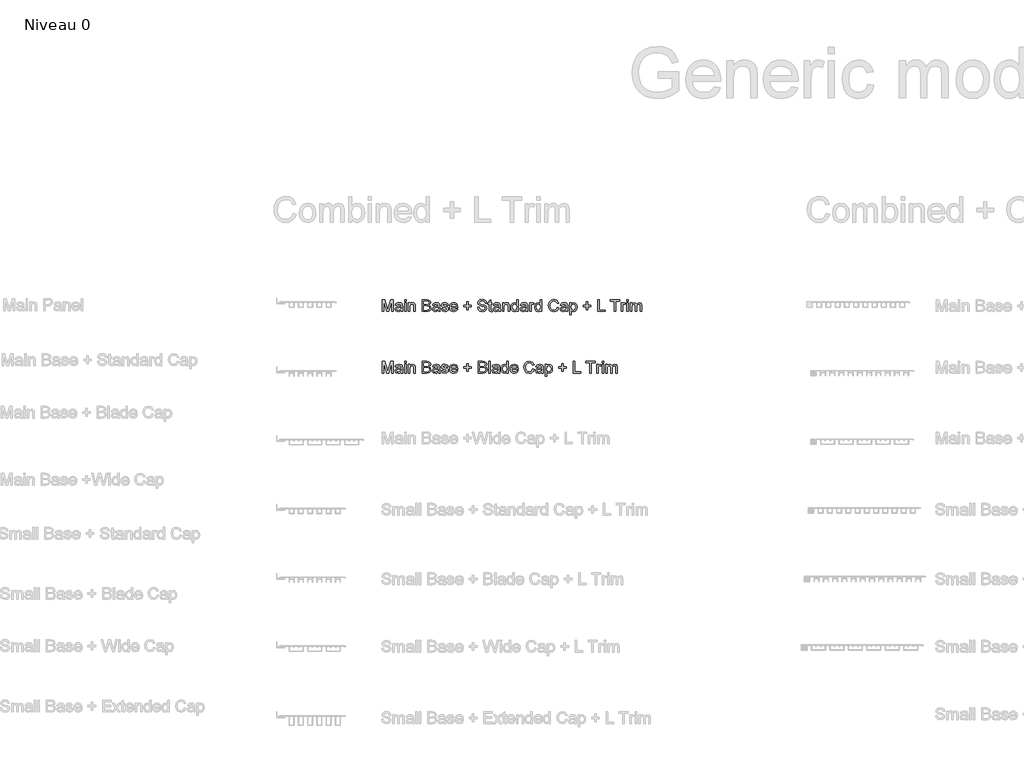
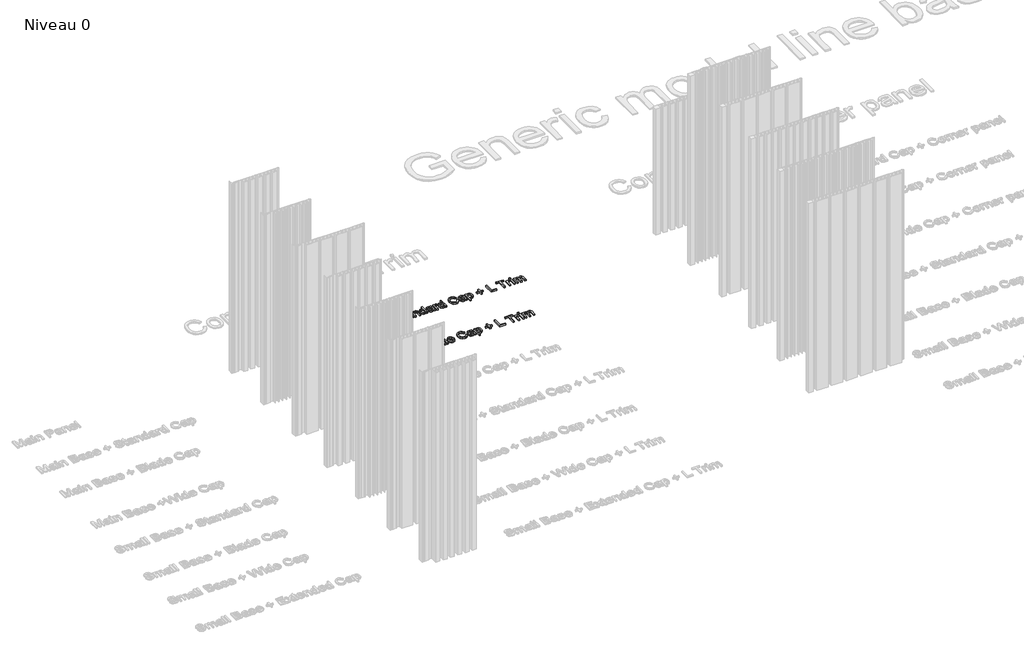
# One storey, part 17 of 25: 2 proxies.
"""IFC4 building model written with IfcOpenShell, lengths in millimetres."""

from ifc_helpers import new_model, si_unit, origin, origin_with_axes, place, context, project, spatial, polyline, outline, extrude, element, save

model = new_model("IFC4")

# Units and contexts
model_context = context("Model", 3, world=origin())
ifc_project = project(units=[si_unit("LENGTHUNIT", "METRE", prefix="MILLI")], contexts=[model_context])

# Site, building, storey
site = spatial("IfcSite", under=ifc_project)
building = spatial("IfcBuilding", under=site)
storey = spatial("IfcBuildingStorey", under=building, Name="Niveau 0", Elevation=0.0)

# Proxies
placement = place(None, origin())
element("IfcBuildingElementProxy", 1, Name="70mm Arial", ObjectType="70mm Arial", at=placement, inside=storey, context=model_context, shape_type="SweptSolid", body=[
    extrude(outline(polyline([(586.1765083, 4513.9134613), (586.1765083, 4584.2328784), (601.3013634, 4584.2328784), (615.688002, 4534.6693635), (618.5893646, 4524.3171642), (621.7310769, 4535.5277548), (635.8773659, 4584.2328784), (651.0022209, 4584.2328784), (651.0022209, 4513.9134613), (642.2122938, 4513.9134613), (642.2122938, 4575.4429513), (624.5466004, 4513.9134613), (612.6321289, 4513.9134613), (594.9664354, 4575.4429513), (594.9664354, 4513.9134613), (586.1765083, 4513.9134613)])), origin_with_axes(), (0.0, 0.0, 1.0), 10.0),
    extrude(outline(polyline([(698.2480793, 4520.5059067), (689.7242535, 4514.5486709), (680.3077007, 4512.8147204), (667.5434217, 4516.9865023), (663.0883708, 4527.6477225), (664.7708178, 4534.6006922), (669.1915331, 4539.6480332), (675.3461988, 4542.532228), (682.951546, 4543.8541506), (698.1965758, 4546.8756881), (698.2480793, 4548.8328203), (695.8274158, 4555.3222587), (686.110426, 4557.863097), (677.2174919, 4556.1720661), (672.9770388, 4550.1719108), (664.1871117, 4551.2706517), (667.9897852, 4559.8545649), (675.6466358, 4564.884738), (687.2435026, 4566.6530242), (697.8961389, 4565.090752), (703.913462, 4561.1679036), (706.6088108, 4555.2020839), (707.0380065, 4547.5108977), (707.0380065, 4536.5749922), (707.4843699, 4521.3042106), (709.2354882, 4513.9134613), (700.4455611, 4513.9134613), (698.2480793, 4520.5059067)]), holes=[polyline([(698.2480793, 4538.085761), (684.0674547, 4535.3904122), (676.5050271, 4533.9654826), (673.0800458, 4531.647826), (671.8782979, 4528.2657642), (674.4963914, 4523.5102763), (682.1789938, 4521.6046476), (691.0719279, 4523.7077063), (696.8059819, 4528.7979669), (698.1965758, 4535.5964261), (698.2480793, 4538.085761)])]), origin_with_axes(), (0.0, 0.0, 1.0), 10.0),
    extrude(outline(polyline([(719.1241563, 4513.9134613), (719.1241563, 4565.5542833), (727.9140834, 4565.5542833), (727.9140834, 4513.9134613), (719.1241563, 4513.9134613)])), origin_with_axes(), (0.0, 0.0, 1.0), 10.0),
    extrude(outline(polyline([(719.1241563, 4575.4429513), (719.1241563, 4584.2328784), (727.9140834, 4584.2328784), (727.9140834, 4575.4429513), (719.1241563, 4575.4429513)])), origin_with_axes(), (0.0, 0.0, 1.0), 10.0),
    extrude(outline(polyline([(741.0989741, 4513.9134613), (741.0989741, 4565.5542833), (749.8889013, 4565.5542833), (749.8889013, 4558.3437962), (756.6101053, 4564.5757172), (765.7863085, 4566.6530242), (774.0869526, 4564.9791611), (779.7523353, 4560.5841975), (782.3875967, 4554.1205109), (782.851128, 4545.6224368), (782.851128, 4513.9134613), (774.0612009, 4513.9134613), (774.0612009, 4544.4378567), (773.0482991, 4552.2148821), (769.4688073, 4556.3265766), (763.4343163, 4557.863097), (753.8975887, 4554.4123639), (749.8889013, 4541.3133123), (749.8889013, 4513.9134613), (741.0989741, 4513.9134613)])), origin_with_axes(), (0.0, 0.0, 1.0), 10.0),
    extrude(outline(polyline([(823.504541, 4513.9134613), (823.504541, 4584.2328784), (850.3378538, 4584.2328784), (863.4798249, 4582.1641554), (871.2396825, 4575.8034757), (874.0466221, 4566.8075346), (871.6860459, 4558.5927296), (864.5528141, 4552.3693926), (873.2139825, 4545.8112829), (876.2441039, 4534.8753774), (874.1753808, 4525.424489), (869.0507846, 4518.694701), (861.4025179, 4515.1237931), (850.1318398, 4513.9134613), (823.504541, 4513.9134613)]), holes=[polyline([(832.2944682, 4555.6656152), (848.3463859, 4555.6656152), (857.7200191, 4556.4209996), (863.3596501, 4559.6743027), (865.2566949, 4565.3997728), (863.4884088, 4571.1338269), (858.4239, 4574.5244726), (847.1274702, 4575.4429513), (832.2944682, 4575.4429513), (832.2944682, 4555.6656152)]), polyline([(832.2944682, 4522.7033885), (850.3206859, 4522.7033885), (856.84446, 4523.046745), (862.3639162, 4524.9609576), (866.0206632, 4528.8666382), (867.4541767, 4534.7895383), (865.7717297, 4541.6223332), (860.3209448, 4545.699692), (849.4622946, 4546.8756881), (832.2944682, 4546.8756881), (832.2944682, 4522.7033885)])]), origin_with_axes(), (0.0, 0.0, 1.0), 10.0),
    extrude(outline(polyline([(920.1937396, 4520.5059067), (911.6699137, 4514.5486709), (902.2533609, 4512.8147204), (889.489082, 4516.9865023), (885.034031, 4527.6477225), (886.716478, 4534.6006922), (891.1371933, 4539.6480332), (897.2918591, 4542.532228), (904.8972062, 4543.8541506), (920.1422361, 4546.8756881), (920.1937396, 4548.8328203), (917.773076, 4555.3222587), (908.0560863, 4557.863097), (899.1631522, 4556.1720661), (894.922699, 4550.1719108), (886.1327719, 4551.2706517), (889.9354454, 4559.8545649), (897.592296, 4564.884738), (909.1891628, 4566.6530242), (919.8417991, 4565.090752), (925.8591223, 4561.1679036), (928.554471, 4555.2020839), (928.9836667, 4547.5108977), (928.9836667, 4536.5749922), (929.4300302, 4521.3042106), (931.1811485, 4513.9134613), (922.3912213, 4513.9134613), (920.1937396, 4520.5059067)]), holes=[polyline([(920.1937396, 4538.085761), (906.0131149, 4535.3904122), (898.4506874, 4533.9654826), (895.025706, 4531.647826), (893.8239581, 4528.2657642), (896.4420517, 4523.5102763), (904.124654, 4521.6046476), (913.0175881, 4523.7077063), (918.7516421, 4528.7979669), (920.1422361, 4535.5964261), (920.1937396, 4538.085761)])]), origin_with_axes(), (0.0, 0.0, 1.0), 10.0),
    extrude(outline(polyline([(937.7735938, 4529.2958338), (946.563521, 4530.3945747), (950.6322958, 4523.8708007), (959.9544256, 4521.6046476), (968.916031, 4523.6819546), (971.8345615, 4528.5576173), (968.8988632, 4532.5062174), (959.8514186, 4535.01272), (946.6150244, 4539.3132606), (940.8380508, 4544.3348498), (938.8723347, 4551.4251621), (940.4517748, 4557.9746879), (944.7608992, 4562.9791093), (950.3490267, 4565.580035), (957.9114542, 4566.6530242), (968.6070101, 4564.9276576), (975.4054694, 4560.2580088), (978.4270068, 4552.3693926), (969.6370797, 4551.2706517), (966.3322731, 4556.1205626), (958.5981673, 4557.863097), (950.1859323, 4556.1978179), (947.6622619, 4552.3178891), (948.7094993, 4549.7598829), (951.9885541, 4547.8199186), (959.5595656, 4545.9486255), (972.4611872, 4541.8111793), (978.4527586, 4537.1243627), (980.6244886, 4529.4846799), (978.0750664, 4521.072445), (970.7186528, 4514.9692827), (959.8342508, 4512.8147204), (944.5033818, 4516.9693344), (937.7735938, 4529.2958338)])), origin_with_axes(), (0.0, 0.0, 1.0), 10.0),
    extrude(outline(polyline([(1026.6685991, 4529.2958338), (1035.286848, 4528.1970929), (1027.2265535, 4516.8491597), (1012.2132893, 4512.8147204), (1001.8997175, 4514.5551088), (993.9638898, 4519.7762741), (988.9036729, 4528.1391515), (987.216934, 4539.3046766), (988.9208408, 4550.845748), (994.0325611, 4559.4768727), (1001.8610899, 4564.8589863), (1011.7154223, 4566.6530242), (1021.2628798, 4564.8632783), (1028.8918327, 4559.4940405), (1033.8941081, 4550.8800836), (1035.5615332, 4539.3561801), (1035.5100298, 4536.9870201), (996.0068611, 4536.9870201), (1001.062786, 4525.5704155), (1012.3849675, 4521.6046476), (1021.0032164, 4523.441605), (1026.6685991, 4529.2958338)]), holes=[polyline([(996.0068611, 4545.7769472), (1026.7716061, 4545.7769472), (1023.2522017, 4553.7428187), (1011.6810867, 4557.863097), (1000.8567721, 4554.5754583), (996.0068611, 4545.7769472)])]), origin_with_axes(), (0.0, 0.0, 1.0), 10.0),
    extrude(outline(polyline([(1089.399837, 4524.9008703), (1089.399837, 4543.5794654), (1070.7212418, 4543.5794654), (1070.7212418, 4552.3693926), (1089.399837, 4552.3693926), (1089.399837, 4571.0479877), (1098.1897641, 4571.0479877), (1098.1897641, 4552.3693926), (1116.8683593, 4552.3693926), (1116.8683593, 4543.5794654), (1098.1897641, 4543.5794654), (1098.1897641, 4524.9008703), (1089.399837, 4524.9008703)])), origin_with_axes(), (0.0, 0.0, 1.0), 10.0),
    extrude(outline(polyline([(1154.2255496, 4538.085761), (1163.0154767, 4538.085761), (1165.8481681, 4529.2872499), (1172.7668022, 4523.7248741), (1183.3078476, 4521.6046476), (1192.4926347, 4523.2098394), (1198.4241188, 4527.6219707), (1200.3726671, 4533.5191191), (1198.9134018, 4539.0042397), (1192.9389982, 4542.9957593), (1180.1403836, 4546.3520694), (1166.3632029, 4550.6869456), (1158.8866145, 4557.2278874), (1156.4230314, 4565.9663111), (1159.4703206, 4575.9150665), (1168.3718386, 4582.9367075), (1181.4022189, 4585.3316193), (1195.3081583, 4582.8251167), (1204.5787846, 4575.4601191), (1208.0638533, 4564.4555424), (1199.2739262, 4564.4555424), (1194.2952565, 4573.4858191), (1181.7455754, 4576.5416922), (1169.1615586, 4573.5201547), (1165.2129585, 4566.2238285), (1168.0113142, 4560.1292501), (1182.3636171, 4555.2192518), (1197.9176679, 4550.8071204), (1206.4243259, 4543.6824724), (1209.1625942, 4533.7423009), (1206.0122981, 4523.2270072), (1196.9476857, 4515.5529888), (1183.6512041, 4512.8147204), (1167.9512268, 4515.7675866), (1158.0196392, 4524.6605207), (1154.2255496, 4538.085761)])), origin_with_axes(), (0.0, 0.0, 1.0), 10.0),
    extrude(outline(polyline([(1239.9273392, 4521.2441232), (1241.0260801, 4513.6559439), (1234.4508026, 4512.8147204), (1227.085805, 4514.2739857), (1223.4118902, 4518.102411), (1222.3474849, 4528.0769181), (1222.3474849, 4556.7643561), (1215.7550396, 4556.7643561), (1215.7550396, 4565.5542833), (1222.3474849, 4565.5542833), (1222.3474849, 4578.1039644), (1231.1374121, 4583.2714802), (1231.1374121, 4565.5542833), (1239.9273392, 4565.5542833), (1239.9273392, 4556.7643561), (1231.1374121, 4556.7643561), (1231.1374121, 4528.3344355), (1231.6009434, 4523.8021294), (1233.1031282, 4522.1969376), (1236.0989139, 4521.6046476), (1239.9273392, 4521.2441232)])), origin_with_axes(), (0.0, 0.0, 1.0), 10.0),
    extrude(outline(polyline([(1281.6794931, 4520.5059067), (1273.1556673, 4514.5486709), (1263.7391145, 4512.8147204), (1250.9748355, 4516.9865023), (1246.5197846, 4527.6477225), (1248.2022315, 4534.6006922), (1252.6229469, 4539.6480332), (1258.7776126, 4542.532228), (1266.3829597, 4543.8541506), (1281.6279896, 4546.8756881), (1281.6794931, 4548.8328203), (1279.2588296, 4555.3222587), (1269.5418398, 4557.863097), (1260.6489057, 4556.1720661), (1256.4084526, 4550.1719108), (1247.6185254, 4551.2706517), (1251.421199, 4559.8545649), (1259.0780496, 4564.884738), (1270.6749164, 4566.6530242), (1281.3275527, 4565.090752), (1287.3448758, 4561.1679036), (1290.0402246, 4555.2020839), (1290.4694202, 4547.5108977), (1290.4694202, 4536.5749922), (1290.9157837, 4521.3042106), (1292.666902, 4513.9134613), (1283.8769749, 4513.9134613), (1281.6794931, 4520.5059067)]), holes=[polyline([(1281.6794931, 4538.085761), (1267.4988685, 4535.3904122), (1259.9364409, 4533.9654826), (1256.5114595, 4531.647826), (1255.3097117, 4528.2657642), (1257.9278052, 4523.5102763), (1265.6104076, 4521.6046476), (1274.5033417, 4523.7077063), (1280.2373957, 4528.7979669), (1281.6279896, 4535.5964261), (1281.6794931, 4538.085761)])]), origin_with_axes(), (0.0, 0.0, 1.0), 10.0),
    extrude(outline(polyline([(1302.5555701, 4513.9134613), (1302.5555701, 4565.5542833), (1311.3454972, 4565.5542833), (1311.3454972, 4558.3437962), (1318.0667012, 4564.5757172), (1327.2429045, 4566.6530242), (1335.5435486, 4564.9791611), (1341.2089313, 4560.5841975), (1343.8441927, 4554.1205109), (1344.307724, 4545.6224368), (1344.307724, 4513.9134613), (1335.5177968, 4513.9134613), (1335.5177968, 4544.4378567), (1334.5048951, 4552.2148821), (1330.9254033, 4556.3265766), (1324.8909123, 4557.863097), (1315.3541847, 4554.4123639), (1311.3454972, 4541.3133123), (1311.3454972, 4513.9134613), (1302.5555701, 4513.9134613)])), origin_with_axes(), (0.0, 0.0, 1.0), 10.0),
    extrude(outline(polyline([(1388.2573597, 4513.9134613), (1388.2573597, 4522.2055215), (1382.4417584, 4515.1624207), (1374.4029237, 4512.8147204), (1363.5185218, 4516.2139501), (1355.8273355, 4525.6991742), (1353.0976511, 4539.6823688), (1355.6127377, 4553.6741474), (1363.1494135, 4563.305298), (1374.3685881, 4566.6530242), (1382.4718021, 4564.2581124), (1388.2573597, 4558.0347753), (1388.2573597, 4584.2328784), (1397.0472868, 4584.2328784), (1397.0472868, 4513.9134613), (1388.2573597, 4513.9134613)]), holes=[polyline([(1361.8875782, 4539.7167045), (1365.8533461, 4526.111202), (1375.2098116, 4521.6046476), (1384.4546861, 4525.9051881), (1388.2573597, 4539.0471592), (1384.3860148, 4553.313623), (1374.8492872, 4557.863097), (1365.5958288, 4553.4938852), (1361.8875782, 4539.7167045)])]), origin_with_axes(), (0.0, 0.0, 1.0), 10.0),
    extrude(outline(polyline([(1443.1944043, 4520.5059067), (1434.6705784, 4514.5486709), (1425.2540256, 4512.8147204), (1412.4897467, 4516.9865023), (1408.0346957, 4527.6477225), (1409.7171427, 4534.6006922), (1414.137858, 4539.6480332), (1420.2925238, 4542.532228), (1427.8978709, 4543.8541506), (1443.1429008, 4546.8756881), (1443.1944043, 4548.8328203), (1440.7737407, 4555.3222587), (1431.056751, 4557.863097), (1422.1638169, 4556.1720661), (1417.9233637, 4550.1719108), (1409.1334366, 4551.2706517), (1412.9361102, 4559.8545649), (1420.5929608, 4564.884738), (1432.1898275, 4566.6530242), (1442.8424638, 4565.090752), (1448.859787, 4561.1679036), (1451.5551357, 4555.2020839), (1451.9843314, 4547.5108977), (1451.9843314, 4536.5749922), (1452.4306949, 4521.3042106), (1454.1818132, 4513.9134613), (1445.3918861, 4513.9134613), (1443.1944043, 4520.5059067)]), holes=[polyline([(1443.1944043, 4538.085761), (1429.0137796, 4535.3904122), (1421.4513521, 4533.9654826), (1418.0263707, 4531.647826), (1416.8246229, 4528.2657642), (1419.4427164, 4523.5102763), (1427.1253187, 4521.6046476), (1436.0182528, 4523.7077063), (1441.7523068, 4528.7979669), (1443.1429008, 4535.5964261), (1443.1944043, 4538.085761)])]), origin_with_axes(), (0.0, 0.0, 1.0), 10.0),
    extrude(outline(polyline([(1464.0704812, 4513.9134613), (1464.0704812, 4565.5542833), (1471.7616675, 4565.5542833), (1471.7616675, 4557.9146005), (1477.2210363, 4564.9534093), (1482.7147407, 4566.6530242), (1491.5390035, 4563.9405076), (1488.6033052, 4556.0604752), (1482.4228877, 4557.863097), (1477.4528019, 4556.1291466), (1474.285338, 4551.3221551), (1472.8604084, 4541.0557949), (1472.8604084, 4513.9134613), (1464.0704812, 4513.9134613)])), origin_with_axes(), (0.0, 0.0, 1.0), 10.0),
    extrude(outline(polyline([(1528.8961939, 4513.9134613), (1528.8961939, 4522.2055215), (1523.0805927, 4515.1624207), (1515.0417579, 4512.8147204), (1504.157356, 4516.2139501), (1496.4661697, 4525.6991742), (1493.7364853, 4539.6823688), (1496.2515719, 4553.6741474), (1503.7882477, 4563.305298), (1515.0074223, 4566.6530242), (1523.1106364, 4564.2581124), (1528.8961939, 4558.0347753), (1528.8961939, 4584.2328784), (1537.686121, 4584.2328784), (1537.686121, 4513.9134613), (1528.8961939, 4513.9134613)]), holes=[polyline([(1502.5264125, 4539.7167045), (1506.4921804, 4526.111202), (1515.8486458, 4521.6046476), (1525.0935203, 4525.9051881), (1528.8961939, 4539.0471592), (1525.024849, 4553.313623), (1515.4881214, 4557.863097), (1506.234663, 4553.4938852), (1502.5264125, 4539.7167045)])]), origin_with_axes(), (0.0, 0.0, 1.0), 10.0),
    extrude(outline(polyline([(1628.8816151, 4538.9098166), (1637.6715422, 4536.6436635), (1633.6156432, 4526.4009091), (1627.2506715, 4518.9178827), (1618.8899401, 4514.340511), (1608.8467616, 4512.8147204), (1590.5544425, 4517.4328658), (1579.824551, 4530.8066026), (1576.1420522, 4549.6053725), (1580.3052501, 4568.7131633), (1592.1424665, 4581.0997501), (1609.0356077, 4585.3316193), (1626.6412137, 4579.8550827), (1636.5728013, 4564.4383746), (1627.7828742, 4562.3438997), (1620.5723871, 4573.1510465), (1608.6922512, 4576.5416922), (1594.9408222, 4572.7819382), (1587.1723807, 4562.6872563), (1584.9319794, 4549.6225403), (1587.5844086, 4534.4805174), (1595.8421331, 4524.8064472), (1607.9712025, 4521.6046476), (1621.4221945, 4525.9652755), (1628.8816151, 4538.9098166)])), origin_with_axes(), (0.0, 0.0, 1.0), 10.0),
    extrude(outline(polyline([(1681.6211779, 4520.5059067), (1673.0973521, 4514.5486709), (1663.6807993, 4512.8147204), (1650.9165203, 4516.9865023), (1646.4614693, 4527.6477225), (1648.1439163, 4534.6006922), (1652.5646316, 4539.6480332), (1658.7192974, 4542.532228), (1666.3246445, 4543.8541506), (1681.5696744, 4546.8756881), (1681.6211779, 4548.8328203), (1679.2005144, 4555.3222587), (1669.4835246, 4557.863097), (1660.5905905, 4556.1720661), (1656.3501374, 4550.1719108), (1647.5602102, 4551.2706517), (1651.3628838, 4559.8545649), (1659.0197344, 4564.884738), (1670.6166011, 4566.6530242), (1681.2692374, 4565.090752), (1687.2865606, 4561.1679036), (1689.9819094, 4555.2020839), (1690.411105, 4547.5108977), (1690.411105, 4536.5749922), (1690.8574685, 4521.3042106), (1692.6085868, 4513.9134613), (1683.8186597, 4513.9134613), (1681.6211779, 4520.5059067)]), holes=[polyline([(1681.6211779, 4538.085761), (1667.4405532, 4535.3904122), (1659.8781257, 4533.9654826), (1656.4531443, 4531.647826), (1655.2513965, 4528.2657642), (1657.86949, 4523.5102763), (1665.5520923, 4521.6046476), (1674.4450264, 4523.7077063), (1680.1790805, 4528.7979669), (1681.5696744, 4535.5964261), (1681.6211779, 4538.085761)])]), origin_with_axes(), (0.0, 0.0, 1.0), 10.0),
    extrude(outline(polyline([(1702.4972548, 4494.1361253), (1702.4972548, 4565.5542833), (1711.287182, 4565.5542833), (1711.287182, 4556.9360344), (1717.3645925, 4564.2237767), (1725.5708136, 4566.6530242), (1736.7127329, 4563.2537945), (1743.9918914, 4553.6741474), (1746.4468905, 4540.1287323), (1743.6742866, 4525.8880203), (1735.622576, 4516.1881983), (1724.5064083, 4512.8147204), (1716.8581417, 4515.0722896), (1711.287182, 4520.7805919), (1711.287182, 4494.1361253), (1702.4972548, 4494.1361253)]), holes=[polyline([(1711.287182, 4539.3218445), (1715.0898555, 4525.9309398), (1724.3175622, 4521.6046476), (1733.7341151, 4526.0854503), (1737.6569634, 4539.9742219), (1733.8285381, 4553.3994621), (1724.6780866, 4557.863097), (1715.3473729, 4553.116193), (1711.287182, 4539.3218445)])]), origin_with_axes(), (0.0, 0.0, 1.0), 10.0),
    extrude(outline(polyline([(1801.3839351, 4524.9008703), (1801.3839351, 4543.5794654), (1782.70534, 4543.5794654), (1782.70534, 4552.3693926), (1801.3839351, 4552.3693926), (1801.3839351, 4571.0479877), (1810.1738623, 4571.0479877), (1810.1738623, 4552.3693926), (1828.8524575, 4552.3693926), (1828.8524575, 4543.5794654), (1810.1738623, 4543.5794654), (1810.1738623, 4524.9008703), (1801.3839351, 4524.9008703)])), origin_with_axes(), (0.0, 0.0, 1.0), 10.0),
    extrude(outline(polyline([(1869.5058705, 4513.9134613), (1869.5058705, 4584.2328784), (1878.2957976, 4584.2328784), (1878.2957976, 4522.7033885), (1913.4555062, 4522.7033885), (1913.4555062, 4513.9134613), (1869.5058705, 4513.9134613)])), origin_with_axes(), (0.0, 0.0, 1.0), 10.0),
    extrude(outline(polyline([(1968.3925508, 4513.9134613), (1968.3925508, 4575.4429513), (1945.318992, 4575.4429513), (1945.318992, 4584.2328784), (2000.2560366, 4584.2328784), (2000.2560366, 4575.4429513), (1977.1824779, 4575.4429513), (1977.1824779, 4513.9134613), (1968.3925508, 4513.9134613)])), origin_with_axes(), (0.0, 0.0, 1.0), 10.0),
    extrude(outline(polyline([(2009.0459638, 4513.9134613), (2009.0459638, 4565.5542833), (2016.73715, 4565.5542833), (2016.73715, 4557.9146005), (2022.1965188, 4564.9534093), (2027.6902233, 4566.6530242), (2036.5144861, 4563.9405076), (2033.5787878, 4556.0604752), (2027.3983702, 4557.863097), (2022.4282845, 4556.1291466), (2019.2608205, 4551.3221551), (2017.8358909, 4541.0557949), (2017.8358909, 4513.9134613), (2009.0459638, 4513.9134613)])), origin_with_axes(), (0.0, 0.0, 1.0), 10.0),
    extrude(outline(polyline([(2042.0081906, 4513.9134613), (2042.0081906, 4565.5542833), (2050.7981177, 4565.5542833), (2050.7981177, 4513.9134613), (2042.0081906, 4513.9134613)])), origin_with_axes(), (0.0, 0.0, 1.0), 10.0),
    extrude(outline(polyline([(2042.0081906, 4575.4429513), (2042.0081906, 4584.2328784), (2050.7981177, 4584.2328784), (2050.7981177, 4575.4429513), (2042.0081906, 4575.4429513)])), origin_with_axes(), (0.0, 0.0, 1.0), 10.0),
    extrude(outline(polyline([(2063.9830084, 4513.9134613), (2063.9830084, 4565.5542833), (2072.7729355, 4565.5542833), (2072.7729355, 4557.0562092), (2078.8160104, 4564.0177628), (2087.4170915, 4566.6530242), (2096.2241865, 4563.9662593), (2101.0655135, 4556.4381674), (2107.9240602, 4564.09931), (2116.5852286, 4566.6530242), (2128.0790884, 4562.4039871), (2132.1049437, 4549.3135195), (2132.1049437, 4513.9134613), (2123.3150166, 4513.9134613), (2123.3150166, 4545.5365976), (2122.4995448, 4552.8758434), (2119.5466787, 4556.4896709), (2114.5250894, 4557.863097), (2105.8810888, 4554.3436926), (2102.4389396, 4543.0644306), (2102.4389396, 4513.9134613), (2093.6490125, 4513.9134613), (2093.6490125, 4546.5151637), (2091.6146251, 4555.0304057), (2084.9449245, 4557.863097), (2078.4383183, 4555.9746361), (2074.112026, 4550.446596), (2072.7729355, 4539.957054), (2072.7729355, 4513.9134613), (2063.9830084, 4513.9134613)])), origin_with_axes(), (0.0, 0.0, 1.0), 10.0),
])
element("IfcBuildingElementProxy", 2, Name="70mm Arial", ObjectType="70mm Arial", at=placement, inside=storey, context=model_context, shape_type="SweptSolid", body=[
    extrude(outline(polyline([(586.1765083, 4146.6240116), (586.1765083, 4216.9434287), (601.3013634, 4216.9434287), (615.688002, 4167.3799137), (618.5893646, 4157.0277144), (621.7310769, 4168.2383051), (635.8773659, 4216.9434287), (651.0022209, 4216.9434287), (651.0022209, 4146.6240116), (642.2122938, 4146.6240116), (642.2122938, 4208.1535015), (624.5466004, 4146.6240116), (612.6321289, 4146.6240116), (594.9664354, 4208.1535015), (594.9664354, 4146.6240116), (586.1765083, 4146.6240116)])), origin_with_axes(), (0.0, 0.0, 1.0), 10.0),
    extrude(outline(polyline([(698.2480793, 4153.2164569), (689.7242535, 4147.2592211), (680.3077007, 4145.5252707), (667.5434217, 4149.6970525), (663.0883708, 4160.3582727), (664.7708178, 4167.3112424), (669.1915331, 4172.3585834), (675.3461988, 4175.2427782), (682.951546, 4176.5647009), (698.1965758, 4179.5862383), (698.2480793, 4181.5433705), (695.8274158, 4188.0328089), (686.110426, 4190.5736473), (677.2174919, 4188.8826164), (672.9770388, 4182.882461), (664.1871117, 4183.9812019), (667.9897852, 4192.5651151), (675.6466358, 4197.5952883), (687.2435026, 4199.3635744), (697.8961389, 4197.8013022), (703.913462, 4193.8784538), (706.6088108, 4187.9126342), (707.0380065, 4180.2214479), (707.0380065, 4169.2855425), (707.4843699, 4154.0147608), (709.2354882, 4146.6240116), (700.4455611, 4146.6240116), (698.2480793, 4153.2164569)]), holes=[polyline([(698.2480793, 4170.7963112), (684.0674547, 4168.1009624), (676.5050271, 4166.6760328), (673.0800458, 4164.3583763), (671.8782979, 4160.9763145), (674.4963914, 4156.2208265), (682.1789938, 4154.3151978), (691.0719279, 4156.4182566), (696.8059819, 4161.5085171), (698.1965758, 4168.3069764), (698.2480793, 4170.7963112)])]), origin_with_axes(), (0.0, 0.0, 1.0), 10.0),
    extrude(outline(polyline([(719.1241563, 4146.6240116), (719.1241563, 4198.2648335), (727.9140834, 4198.2648335), (727.9140834, 4146.6240116), (719.1241563, 4146.6240116)])), origin_with_axes(), (0.0, 0.0, 1.0), 10.0),
    extrude(outline(polyline([(719.1241563, 4208.1535015), (719.1241563, 4216.9434287), (727.9140834, 4216.9434287), (727.9140834, 4208.1535015), (719.1241563, 4208.1535015)])), origin_with_axes(), (0.0, 0.0, 1.0), 10.0),
    extrude(outline(polyline([(741.0989741, 4146.6240116), (741.0989741, 4198.2648335), (749.8889013, 4198.2648335), (749.8889013, 4191.0543464), (756.6101053, 4197.2862674), (765.7863085, 4199.3635744), (774.0869526, 4197.6897113), (779.7523353, 4193.2947477), (782.3875967, 4186.8310611), (782.851128, 4178.332987), (782.851128, 4146.6240116), (774.0612009, 4146.6240116), (774.0612009, 4177.148407), (773.0482991, 4184.9254324), (769.4688073, 4189.0371268), (763.4343163, 4190.5736473), (753.8975887, 4187.1229141), (749.8889013, 4174.0238626), (749.8889013, 4146.6240116), (741.0989741, 4146.6240116)])), origin_with_axes(), (0.0, 0.0, 1.0), 10.0),
    extrude(outline(polyline([(823.504541, 4146.6240116), (823.504541, 4216.9434287), (850.3378538, 4216.9434287), (863.4798249, 4214.8747056), (871.2396825, 4208.5140259), (874.0466221, 4199.5180848), (871.6860459, 4191.3032799), (864.5528141, 4185.0799428), (873.2139825, 4178.5218331), (876.2441039, 4167.5859277), (874.1753808, 4158.1350392), (869.0507846, 4151.4052512), (861.4025179, 4147.8343433), (850.1318398, 4146.6240116), (823.504541, 4146.6240116)]), holes=[polyline([(832.2944682, 4188.3761655), (848.3463859, 4188.3761655), (857.7200191, 4189.1315498), (863.3596501, 4192.3848529), (865.2566949, 4198.1103231), (863.4884088, 4203.8443771), (858.4239, 4207.2350228), (847.1274702, 4208.1535015), (832.2944682, 4208.1535015), (832.2944682, 4188.3761655)]), polyline([(832.2944682, 4155.4139387), (850.3206859, 4155.4139387), (856.84446, 4155.7572952), (862.3639162, 4157.6715079), (866.0206632, 4161.5771884), (867.4541767, 4167.5000885), (865.7717297, 4174.3328834), (860.3209448, 4178.4102422), (849.4622946, 4179.5862383), (832.2944682, 4179.5862383), (832.2944682, 4155.4139387)])]), origin_with_axes(), (0.0, 0.0, 1.0), 10.0),
    extrude(outline(polyline([(920.1937396, 4153.2164569), (911.6699137, 4147.2592211), (902.2533609, 4145.5252707), (889.489082, 4149.6970525), (885.034031, 4160.3582727), (886.716478, 4167.3112424), (891.1371933, 4172.3585834), (897.2918591, 4175.2427782), (904.8972062, 4176.5647009), (920.1422361, 4179.5862383), (920.1937396, 4181.5433705), (917.773076, 4188.0328089), (908.0560863, 4190.5736473), (899.1631522, 4188.8826164), (894.922699, 4182.882461), (886.1327719, 4183.9812019), (889.9354454, 4192.5651151), (897.592296, 4197.5952883), (909.1891628, 4199.3635744), (919.8417991, 4197.8013022), (925.8591223, 4193.8784538), (928.554471, 4187.9126342), (928.9836667, 4180.2214479), (928.9836667, 4169.2855425), (929.4300302, 4154.0147608), (931.1811485, 4146.6240116), (922.3912213, 4146.6240116), (920.1937396, 4153.2164569)]), holes=[polyline([(920.1937396, 4170.7963112), (906.0131149, 4168.1009624), (898.4506874, 4166.6760328), (895.025706, 4164.3583763), (893.8239581, 4160.9763145), (896.4420517, 4156.2208265), (904.124654, 4154.3151978), (913.0175881, 4156.4182566), (918.7516421, 4161.5085171), (920.1422361, 4168.3069764), (920.1937396, 4170.7963112)])]), origin_with_axes(), (0.0, 0.0, 1.0), 10.0),
    extrude(outline(polyline([(937.7735938, 4162.0063841), (946.563521, 4163.1051249), (950.6322958, 4156.5813509), (959.9544256, 4154.3151978), (968.916031, 4156.3925048), (971.8345615, 4161.2681675), (968.8988632, 4165.2167676), (959.8514186, 4167.7232703), (946.6150244, 4172.0238108), (940.8380508, 4177.0454), (938.8723347, 4184.1357123), (940.4517748, 4190.6852381), (944.7608992, 4195.6896595), (950.3490267, 4198.2905852), (957.9114542, 4199.3635744), (968.6070101, 4197.6382078), (975.4054694, 4192.968559), (978.4270068, 4185.0799428), (969.6370797, 4183.9812019), (966.3322731, 4188.8311129), (958.5981673, 4190.5736473), (950.1859323, 4188.9083681), (947.6622619, 4185.0284393), (948.7094993, 4182.4704332), (951.9885541, 4180.5304688), (959.5595656, 4178.6591757), (972.4611872, 4174.5217295), (978.4527586, 4169.8349129), (980.6244886, 4162.1952301), (978.0750664, 4153.7829952), (970.7186528, 4147.6798329), (959.8342508, 4145.5252707), (944.5033818, 4149.6798847), (937.7735938, 4162.0063841)])), origin_with_axes(), (0.0, 0.0, 1.0), 10.0),
    extrude(outline(polyline([(1026.6685991, 4162.0063841), (1035.286848, 4160.9076432), (1027.2265535, 4149.5597099), (1012.2132893, 4145.5252707), (1001.8997175, 4147.2656591), (993.9638898, 4152.4868243), (988.9036729, 4160.8497018), (987.216934, 4172.0152269), (988.9208408, 4183.5562982), (994.0325611, 4192.1874229), (1001.8610899, 4197.5695365), (1011.7154223, 4199.3635744), (1021.2628798, 4197.5738285), (1028.8918327, 4192.2045908), (1033.8941081, 4183.5906339), (1035.5615332, 4172.0667304), (1035.5100298, 4169.6975703), (996.0068611, 4169.6975703), (1001.062786, 4158.2809657), (1012.3849675, 4154.3151978), (1021.0032164, 4156.1521552), (1026.6685991, 4162.0063841)]), holes=[polyline([(996.0068611, 4178.4874974), (1026.7716061, 4178.4874974), (1023.2522017, 4186.4533689), (1011.6810867, 4190.5736473), (1000.8567721, 4187.2860085), (996.0068611, 4178.4874974)])]), origin_with_axes(), (0.0, 0.0, 1.0), 10.0),
    extrude(outline(polyline([(1089.399837, 4157.6114205), (1089.399837, 4176.2900157), (1070.7212418, 4176.2900157), (1070.7212418, 4185.0799428), (1089.399837, 4185.0799428), (1089.399837, 4203.758538), (1098.1897641, 4203.758538), (1098.1897641, 4185.0799428), (1116.8683593, 4185.0799428), (1116.8683593, 4176.2900157), (1098.1897641, 4176.2900157), (1098.1897641, 4157.6114205), (1089.399837, 4157.6114205)])), origin_with_axes(), (0.0, 0.0, 1.0), 10.0),
    extrude(outline(polyline([(1157.5217723, 4146.6240116), (1157.5217723, 4216.9434287), (1184.355085, 4216.9434287), (1197.4970561, 4214.8747056), (1205.2569137, 4208.5140259), (1208.0638533, 4199.5180848), (1205.7032772, 4191.3032799), (1198.5700453, 4185.0799428), (1207.2312137, 4178.5218331), (1210.2613351, 4167.5859277), (1208.192612, 4158.1350392), (1203.0680158, 4151.4052512), (1195.4197491, 4147.8343433), (1184.1490711, 4146.6240116), (1157.5217723, 4146.6240116)]), holes=[polyline([(1166.3116994, 4155.4139387), (1184.3379172, 4155.4139387), (1190.8616912, 4155.7572952), (1196.3811474, 4157.6715079), (1200.0378945, 4161.5771884), (1201.471408, 4167.5000885), (1199.788961, 4174.3328834), (1194.3381761, 4178.4102422), (1183.4795259, 4179.5862383), (1166.3116994, 4179.5862383), (1166.3116994, 4155.4139387)]), polyline([(1166.3116994, 4188.3761655), (1182.3636171, 4188.3761655), (1191.7372504, 4189.1315498), (1197.3768814, 4192.3848529), (1199.2739262, 4198.1103231), (1197.5056401, 4203.8443771), (1192.4411313, 4207.2350228), (1181.1447015, 4208.1535015), (1166.3116994, 4208.1535015), (1166.3116994, 4188.3761655)])]), origin_with_axes(), (0.0, 0.0, 1.0), 10.0),
    extrude(outline(polyline([(1221.248744, 4146.6240116), (1221.248744, 4216.9434287), (1230.0386712, 4216.9434287), (1230.0386712, 4146.6240116), (1221.248744, 4146.6240116)])), origin_with_axes(), (0.0, 0.0, 1.0), 10.0),
    extrude(outline(polyline([(1276.1857886, 4153.2164569), (1267.6619628, 4147.2592211), (1258.24541, 4145.5252707), (1245.4811311, 4149.6970525), (1241.0260801, 4160.3582727), (1242.7085271, 4167.3112424), (1247.1292424, 4172.3585834), (1253.2839082, 4175.2427782), (1260.8892553, 4176.5647009), (1276.1342852, 4179.5862383), (1276.1857886, 4181.5433705), (1273.7651251, 4188.0328089), (1264.0481354, 4190.5736473), (1255.1552013, 4188.8826164), (1250.9147481, 4182.882461), (1242.124821, 4183.9812019), (1245.9274945, 4192.5651151), (1253.5843451, 4197.5952883), (1265.1812119, 4199.3635744), (1275.8338482, 4197.8013022), (1281.8511714, 4193.8784538), (1284.5465201, 4187.9126342), (1284.9757158, 4180.2214479), (1284.9757158, 4169.2855425), (1285.4220793, 4154.0147608), (1287.1731976, 4146.6240116), (1278.3832704, 4146.6240116), (1276.1857886, 4153.2164569)]), holes=[polyline([(1276.1857886, 4170.7963112), (1262.005164, 4168.1009624), (1254.4427365, 4166.6760328), (1251.0177551, 4164.3583763), (1249.8160072, 4160.9763145), (1252.4341008, 4156.2208265), (1260.1167031, 4154.3151978), (1269.0096372, 4156.4182566), (1274.7436912, 4161.5085171), (1276.1342852, 4168.3069764), (1276.1857886, 4170.7963112)])]), origin_with_axes(), (0.0, 0.0, 1.0), 10.0),
    extrude(outline(polyline([(1328.9253515, 4146.6240116), (1328.9253515, 4154.9160717), (1323.1097503, 4147.8729709), (1315.0709155, 4145.5252707), (1304.1865136, 4148.9245003), (1296.4953273, 4158.4097244), (1293.7656429, 4172.3929191), (1296.2807295, 4186.3846976), (1303.8174053, 4196.0158482), (1315.0365799, 4199.3635744), (1323.139794, 4196.9686626), (1328.9253515, 4190.7453255), (1328.9253515, 4216.9434287), (1337.7152786, 4216.9434287), (1337.7152786, 4146.6240116), (1328.9253515, 4146.6240116)]), holes=[polyline([(1302.5555701, 4172.4272547), (1306.521338, 4158.8217523), (1315.8778034, 4154.3151978), (1325.1226779, 4158.6157383), (1328.9253515, 4171.7577095), (1325.0540066, 4186.0241732), (1315.517279, 4190.5736473), (1306.2638206, 4186.2044354), (1302.5555701, 4172.4272547)])]), origin_with_axes(), (0.0, 0.0, 1.0), 10.0),
    extrude(outline(polyline([(1387.0556118, 4162.0063841), (1395.6738607, 4160.9076432), (1387.6135662, 4149.5597099), (1372.6003019, 4145.5252707), (1362.2867302, 4147.2656591), (1354.3509024, 4152.4868243), (1349.2906856, 4160.8497018), (1347.6039466, 4172.0152269), (1349.3078534, 4183.5562982), (1354.4195737, 4192.1874229), (1362.2481026, 4197.5695365), (1372.102435, 4199.3635744), (1381.6498925, 4197.5738285), (1389.2788453, 4192.2045908), (1394.2811208, 4183.5906339), (1395.9485459, 4172.0667304), (1395.8970424, 4169.6975703), (1356.3938738, 4169.6975703), (1361.4497987, 4158.2809657), (1372.7719802, 4154.3151978), (1381.3902291, 4156.1521552), (1387.0556118, 4162.0063841)]), holes=[polyline([(1356.3938738, 4178.4874974), (1387.1586188, 4178.4874974), (1383.6392143, 4186.4533689), (1372.0680993, 4190.5736473), (1361.2437847, 4187.2860085), (1356.3938738, 4178.4874974)])]), origin_with_axes(), (0.0, 0.0, 1.0), 10.0),
    extrude(outline(polyline([(1482.7490764, 4171.6203669), (1491.5390035, 4169.3542138), (1487.4831045, 4159.1114593), (1481.1181329, 4151.628433), (1472.7574014, 4147.0510612), (1462.7142229, 4145.5252707), (1444.4219039, 4150.143416), (1433.6920123, 4163.5171528), (1430.0095136, 4182.3159227), (1434.1727115, 4201.4237136), (1446.0099278, 4213.8103003), (1462.903069, 4218.0421696), (1480.508675, 4212.5656329), (1490.4402626, 4197.1489248), (1481.6503355, 4195.05445), (1474.4398484, 4205.8615967), (1462.5597125, 4209.2522424), (1448.8082835, 4205.4924884), (1441.039842, 4195.3978065), (1438.7994407, 4182.3330906), (1441.4518699, 4167.1910676), (1449.7095944, 4157.5169974), (1461.8386638, 4154.3151978), (1475.2896558, 4158.6758257), (1482.7490764, 4171.6203669)])), origin_with_axes(), (0.0, 0.0, 1.0), 10.0),
    extrude(outline(polyline([(1535.4886392, 4153.2164569), (1526.9648134, 4147.2592211), (1517.5482606, 4145.5252707), (1504.7839816, 4149.6970525), (1500.3289307, 4160.3582727), (1502.0113777, 4167.3112424), (1506.432093, 4172.3585834), (1512.5867587, 4175.2427782), (1520.1921059, 4176.5647009), (1535.4371357, 4179.5862383), (1535.4886392, 4181.5433705), (1533.0679757, 4188.0328089), (1523.3509859, 4190.5736473), (1514.4580518, 4188.8826164), (1510.2175987, 4182.882461), (1501.4276716, 4183.9812019), (1505.2303451, 4192.5651151), (1512.8871957, 4197.5952883), (1524.4840625, 4199.3635744), (1535.1366988, 4197.8013022), (1541.1540219, 4193.8784538), (1543.8493707, 4187.9126342), (1544.2785664, 4180.2214479), (1544.2785664, 4169.2855425), (1544.7249298, 4154.0147608), (1546.4760481, 4146.6240116), (1537.686121, 4146.6240116), (1535.4886392, 4153.2164569)]), holes=[polyline([(1535.4886392, 4170.7963112), (1521.3080146, 4168.1009624), (1513.745587, 4166.6760328), (1510.3206057, 4164.3583763), (1509.1188578, 4160.9763145), (1511.7369513, 4156.2208265), (1519.4195537, 4154.3151978), (1528.3124878, 4156.4182566), (1534.0465418, 4161.5085171), (1535.4371357, 4168.3069764), (1535.4886392, 4170.7963112)])]), origin_with_axes(), (0.0, 0.0, 1.0), 10.0),
    extrude(outline(polyline([(1556.3647162, 4126.8466755), (1556.3647162, 4198.2648335), (1565.1546433, 4198.2648335), (1565.1546433, 4189.6465846), (1571.2320539, 4196.934327), (1579.4382749, 4199.3635744), (1590.5801943, 4195.9643448), (1597.8593527, 4186.3846976), (1600.3143519, 4172.8392825), (1597.5417479, 4158.5985705), (1589.4900373, 4148.8987486), (1578.3738697, 4145.5252707), (1570.725603, 4147.7828399), (1565.1546433, 4153.4911421), (1565.1546433, 4126.8466755), (1556.3647162, 4126.8466755)]), holes=[polyline([(1565.1546433, 4172.0323947), (1568.9573169, 4158.6414901), (1578.1850236, 4154.3151978), (1587.6015764, 4158.7960005), (1591.5244247, 4172.6847721), (1587.6959994, 4186.1100124), (1578.5455479, 4190.5736473), (1569.2148343, 4185.8267432), (1565.1546433, 4172.0323947)])]), origin_with_axes(), (0.0, 0.0, 1.0), 10.0),
    extrude(outline(polyline([(1655.2513965, 4157.6114205), (1655.2513965, 4176.2900157), (1636.5728013, 4176.2900157), (1636.5728013, 4185.0799428), (1655.2513965, 4185.0799428), (1655.2513965, 4203.758538), (1664.0413236, 4203.758538), (1664.0413236, 4185.0799428), (1682.7199188, 4185.0799428), (1682.7199188, 4176.2900157), (1664.0413236, 4176.2900157), (1664.0413236, 4157.6114205), (1655.2513965, 4157.6114205)])), origin_with_axes(), (0.0, 0.0, 1.0), 10.0),
    extrude(outline(polyline([(1723.3733318, 4146.6240116), (1723.3733318, 4216.9434287), (1732.1632589, 4216.9434287), (1732.1632589, 4155.4139387), (1767.3229675, 4155.4139387), (1767.3229675, 4146.6240116), (1723.3733318, 4146.6240116)])), origin_with_axes(), (0.0, 0.0, 1.0), 10.0),
    extrude(outline(polyline([(1822.2600121, 4146.6240116), (1822.2600121, 4208.1535015), (1799.1864534, 4208.1535015), (1799.1864534, 4216.9434287), (1854.123498, 4216.9434287), (1854.123498, 4208.1535015), (1831.0499392, 4208.1535015), (1831.0499392, 4146.6240116), (1822.2600121, 4146.6240116)])), origin_with_axes(), (0.0, 0.0, 1.0), 10.0),
    extrude(outline(polyline([(1862.9134251, 4146.6240116), (1862.9134251, 4198.2648335), (1870.6046114, 4198.2648335), (1870.6046114, 4190.6251507), (1876.0639802, 4197.6639596), (1881.5576846, 4199.3635744), (1890.3819474, 4196.6510578), (1887.4462491, 4188.7710255), (1881.2658316, 4190.5736473), (1876.2957458, 4188.8396968), (1873.1282818, 4184.0327054), (1871.7033522, 4173.7663452), (1871.7033522, 4146.6240116), (1862.9134251, 4146.6240116)])), origin_with_axes(), (0.0, 0.0, 1.0), 10.0),
    extrude(outline(polyline([(1895.8756519, 4146.6240116), (1895.8756519, 4198.2648335), (1904.665579, 4198.2648335), (1904.665579, 4146.6240116), (1895.8756519, 4146.6240116)])), origin_with_axes(), (0.0, 0.0, 1.0), 10.0),
    extrude(outline(polyline([(1895.8756519, 4208.1535015), (1895.8756519, 4216.9434287), (1904.665579, 4216.9434287), (1904.665579, 4208.1535015), (1895.8756519, 4208.1535015)])), origin_with_axes(), (0.0, 0.0, 1.0), 10.0),
    extrude(outline(polyline([(1917.8504697, 4146.6240116), (1917.8504697, 4198.2648335), (1926.6403969, 4198.2648335), (1926.6403969, 4189.7667594), (1932.6834718, 4196.728313), (1941.2845528, 4199.3635744), (1950.0916478, 4196.6768096), (1954.9329748, 4189.1487177), (1961.7915215, 4196.8098602), (1970.4526899, 4199.3635744), (1981.9465497, 4195.1145373), (1985.972405, 4182.0240697), (1985.972405, 4146.6240116), (1977.1824779, 4146.6240116), (1977.1824779, 4178.2471479), (1976.3670062, 4185.5863937), (1973.41414, 4189.2002211), (1968.3925508, 4190.5736473), (1959.7485502, 4187.0542428), (1956.306401, 4175.7749809), (1956.306401, 4146.6240116), (1947.5164738, 4146.6240116), (1947.5164738, 4179.225714), (1945.4820864, 4187.7409559), (1938.8123858, 4190.5736473), (1932.3057796, 4188.6851863), (1927.9794873, 4183.1571462), (1926.6403969, 4172.6676043), (1926.6403969, 4146.6240116), (1917.8504697, 4146.6240116)])), origin_with_axes(), (0.0, 0.0, 1.0), 10.0),
])

save(model, "model.ifc")
